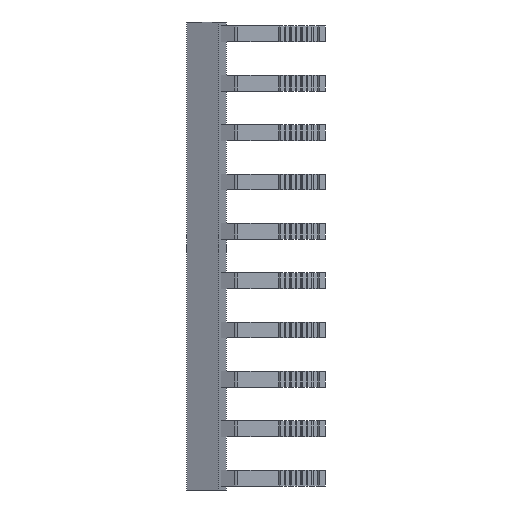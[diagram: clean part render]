
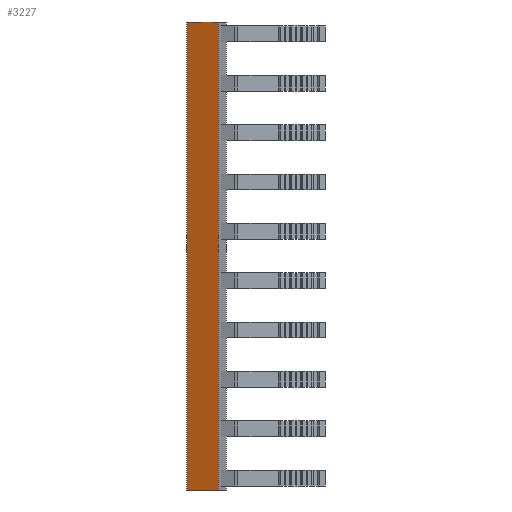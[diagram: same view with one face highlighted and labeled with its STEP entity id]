
A CAD part, left-side view. The second image highlights one B-rep face of the part: STEP entity #3227.
In plain terms, the highlighted planar face has unit normal (-0.906, 0.423, 0).
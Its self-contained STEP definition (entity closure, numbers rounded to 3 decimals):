
#3227 = ADVANCED_FACE('',(#3228),#3242,.T.);
#3228 = FACE_BOUND('',#3229,.T.);
#3229 = EDGE_LOOP('',(#3230,#3253,#3269,#3285));
#3230 = ORIENTED_EDGE('',*,*,#3231,.T.);
#3231 = EDGE_CURVE('',#3232,#3234,#3236,.T.);
#3232 = VERTEX_POINT('',#3233);
#3233 = CARTESIAN_POINT('',(5.647,18.704,8.7));
#3234 = VERTEX_POINT('',#3235);
#3235 = CARTESIAN_POINT('',(5.647,18.704,-50.1));
#3236 = SURFACE_CURVE('',#3237,(#3241),.PCURVE_S1.);
#3237 = LINE('',#3238,#3239);
#3238 = CARTESIAN_POINT('',(5.647,18.704,9.));
#3239 = VECTOR('',#3240,1.);
#3240 = DIRECTION('',(0.,0.,-1.));
#3241 = PCURVE('',#3242,#3247);
#3242 = PLANE('',#3243);
#3243 = AXIS2_PLACEMENT_3D('',#3244,#3245,#3246);
#3244 = CARTESIAN_POINT('',(-2.526,1.178,0.));
#3245 = DIRECTION('',(-0.906,0.423,0.));
#3246 = DIRECTION('',(0.423,0.906,0.));
#3247 = DEFINITIONAL_REPRESENTATION('',(#3248),#3252);
#3248 = LINE('',#3249,#3250);
#3249 = CARTESIAN_POINT('',(19.338,-9.));
#3250 = VECTOR('',#3251,1.);
#3251 = DIRECTION('',(0.,1.));
#3252 = ( GEOMETRIC_REPRESENTATION_CONTEXT(2) 
PARAMETRIC_REPRESENTATION_CONTEXT() REPRESENTATION_CONTEXT('2D SPACE',''
  ) );
#3253 = ORIENTED_EDGE('',*,*,#3254,.F.);
#3254 = EDGE_CURVE('',#3255,#3234,#3257,.T.);
#3255 = VERTEX_POINT('',#3256);
#3256 = CARTESIAN_POINT('',(3.787,14.716,-50.1));
#3257 = SURFACE_CURVE('',#3258,(#3262),.PCURVE_S1.);
#3258 = LINE('',#3259,#3260);
#3259 = CARTESIAN_POINT('',(-2.526,1.178,-50.1));
#3260 = VECTOR('',#3261,1.);
#3261 = DIRECTION('',(0.423,0.906,0.));
#3262 = PCURVE('',#3242,#3263);
#3263 = DEFINITIONAL_REPRESENTATION('',(#3264),#3268);
#3264 = LINE('',#3265,#3266);
#3265 = CARTESIAN_POINT('',(0.,50.1));
#3266 = VECTOR('',#3267,1.);
#3267 = DIRECTION('',(1.,0.));
#3268 = ( GEOMETRIC_REPRESENTATION_CONTEXT(2) 
PARAMETRIC_REPRESENTATION_CONTEXT() REPRESENTATION_CONTEXT('2D SPACE',''
  ) );
#3269 = ORIENTED_EDGE('',*,*,#3270,.T.);
#3270 = EDGE_CURVE('',#3255,#3271,#3273,.T.);
#3271 = VERTEX_POINT('',#3272);
#3272 = CARTESIAN_POINT('',(3.787,14.716,8.7));
#3273 = SURFACE_CURVE('',#3274,(#3278),.PCURVE_S1.);
#3274 = LINE('',#3275,#3276);
#3275 = CARTESIAN_POINT('',(3.787,14.716,-0.8));
#3276 = VECTOR('',#3277,1.);
#3277 = DIRECTION('',(0.,0.,1.));
#3278 = PCURVE('',#3242,#3279);
#3279 = DEFINITIONAL_REPRESENTATION('',(#3280),#3284);
#3280 = LINE('',#3281,#3282);
#3281 = CARTESIAN_POINT('',(14.938,0.8));
#3282 = VECTOR('',#3283,1.);
#3283 = DIRECTION('',(0.,-1.));
#3284 = ( GEOMETRIC_REPRESENTATION_CONTEXT(2) 
PARAMETRIC_REPRESENTATION_CONTEXT() REPRESENTATION_CONTEXT('2D SPACE',''
  ) );
#3285 = ORIENTED_EDGE('',*,*,#3286,.T.);
#3286 = EDGE_CURVE('',#3271,#3232,#3287,.T.);
#3287 = SURFACE_CURVE('',#3288,(#3292),.PCURVE_S1.);
#3288 = LINE('',#3289,#3290);
#3289 = CARTESIAN_POINT('',(-2.526,1.178,8.7));
#3290 = VECTOR('',#3291,1.);
#3291 = DIRECTION('',(0.423,0.906,0.));
#3292 = PCURVE('',#3242,#3293);
#3293 = DEFINITIONAL_REPRESENTATION('',(#3294),#3298);
#3294 = LINE('',#3295,#3296);
#3295 = CARTESIAN_POINT('',(0.,-8.7));
#3296 = VECTOR('',#3297,1.);
#3297 = DIRECTION('',(1.,0.));
#3298 = ( GEOMETRIC_REPRESENTATION_CONTEXT(2) 
PARAMETRIC_REPRESENTATION_CONTEXT() REPRESENTATION_CONTEXT('2D SPACE',''
  ) );
